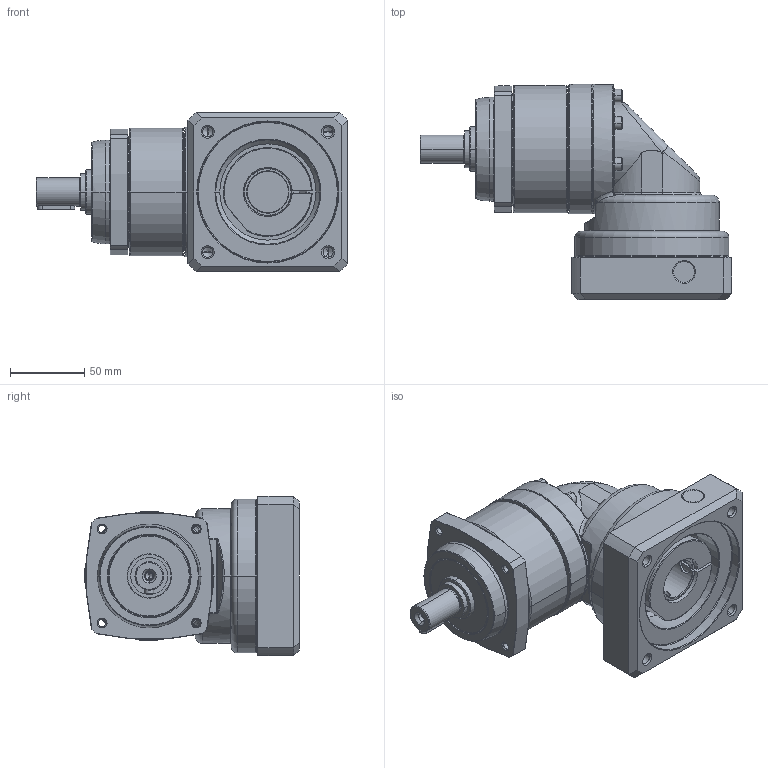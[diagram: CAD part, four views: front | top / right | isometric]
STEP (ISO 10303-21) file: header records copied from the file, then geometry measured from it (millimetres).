
FILE_DESCRIPTION((''),'2;1');
FILE_NAME('PS2R-C_1ST_28-P0411600101_ASM','2016-05-30T',('d01943'),(''),'PRO/ENGINEER BY PARAMETRIC TECHNOLOGY CORPORATION, 2008410','PRO/ENGINEER BY PARAMETRIC TECHNOLOGY CORPORATION, 2008410','');
FILE_SCHEMA(('CONFIG_CONTROL_DESIGN'));
Length unit declared in the file: millimetre
Products named in the file (12): P1328310001; P0250300001; P0350301401; P1349300001; P1017300001; P0713303001; P0503600008; P1350300301; P0411600101; P1702500001; 2111BA05025; PS2R-C_1ST_28-P0411600101_ASM
Assembly tree (16 placements, depth 2):
  PS2R-C_1ST_28-P0411600101_ASM
    P1328310001
    P0250300001
    P0350301401
    P1349300001
    P1017300001
    P0713303001
    P0503600008
    P1350300301
    P0411600101
    P1702500001
    2111BA05025  x6
Bounding box: 210.5 x 145.25 x 108 mm (x, y, z)
Volume: 864173.7 mm3; surface area: 216800 mm2
Topology: 16 solids, 16 shells, 788 faces, 1733 edges, 1006 vertices
Faces by surface type: cylinder 246, cone 230, plane 190, torus 88, bspline 34
Entity records: 23111 total; most frequent: CARTESIAN_POINT 9075, DIRECTION 3108, ORIENTED_EDGE 2714, EDGE_CURVE 1357, AXIS2_PLACEMENT_3D 1314, VERTEX_POINT 806, EDGE_LOOP 711, CIRCLE 697
